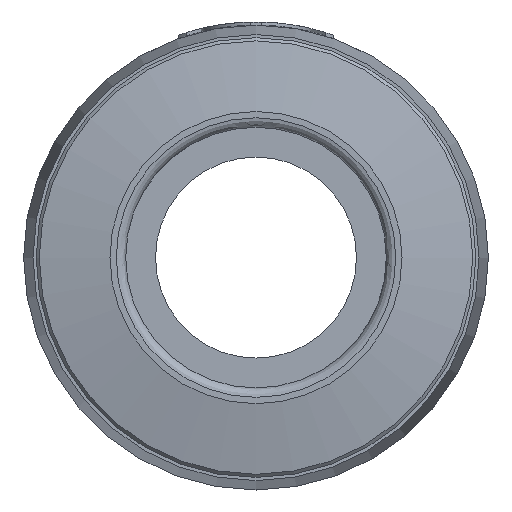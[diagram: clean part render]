
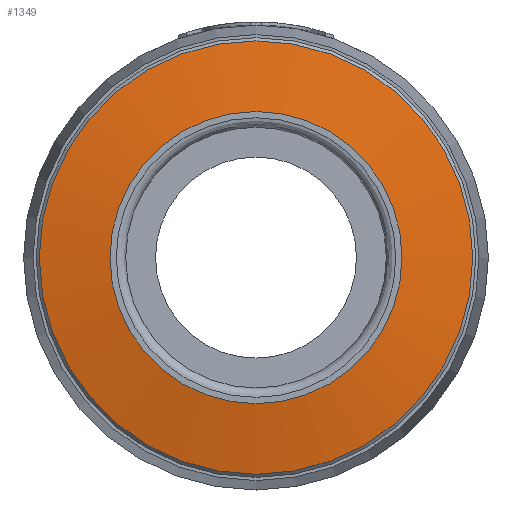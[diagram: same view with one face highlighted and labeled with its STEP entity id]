
A CAD part, left-side view. The second image highlights one B-rep face of the part: STEP entity #1349.
In plain terms, the highlighted conical face has half-angle 79.919 degrees and reference radius 5.775 mm.
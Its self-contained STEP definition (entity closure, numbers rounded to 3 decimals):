
#337=CARTESIAN_POINT('',(0.0,4.65,0.0));
#338=VERTEX_POINT('',#337);
#339=CARTESIAN_POINT('',(0.0,0.,0.0));
#340=DIRECTION('',(1.0,0.0,0.0));
#341=DIRECTION('',(0.0,1.0,0.0));
#342=AXIS2_PLACEMENT_3D('',#339,#340,#341);
#343=CIRCLE('',#342,4.65);
#344=EDGE_CURVE('',#338,#338,#343,.T.);
#1330=CARTESIAN_POINT('',(0.2,0.,0.0));
#1331=DIRECTION('',(1.0,0.0,0.0));
#1332=DIRECTION('',(0.0,1.0,0.0));
#1333=AXIS2_PLACEMENT_3D('',#1330,#1331,#1332);
#1334=CONICAL_SURFACE('',#1333,5.775,79.919);
#1335=CARTESIAN_POINT('',(0.4,6.9,0.0));
#1336=VERTEX_POINT('',#1335);
#1337=CARTESIAN_POINT('',(0.4,0.,0.0));
#1338=DIRECTION('',(1.0,0.0,0.0));
#1339=DIRECTION('',(0.0,1.0,0.0));
#1340=AXIS2_PLACEMENT_3D('',#1337,#1338,#1339);
#1341=CIRCLE('',#1340,6.9);
#1342=EDGE_CURVE('',#1336,#1336,#1341,.T.);
#1343=ORIENTED_EDGE('',*,*,#1342,.F.);
#1344=EDGE_LOOP('',(#1343));
#1345=FACE_OUTER_BOUND('',#1344,.T.);
#1346=ORIENTED_EDGE('',*,*,#344,.T.);
#1347=EDGE_LOOP('',(#1346));
#1348=FACE_BOUND('',#1347,.T.);
#1349=ADVANCED_FACE('',(#1345,#1348),#1334,.T.);
